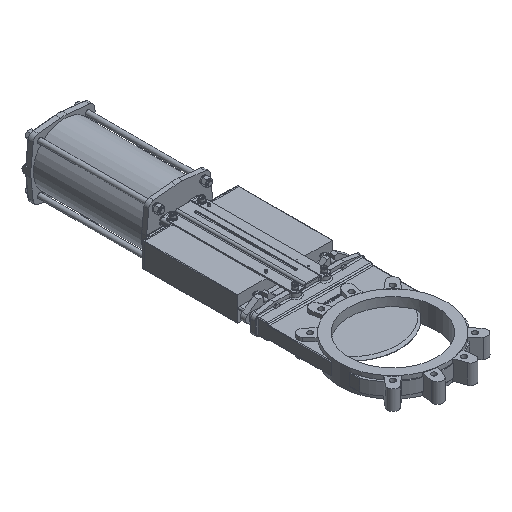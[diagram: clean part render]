
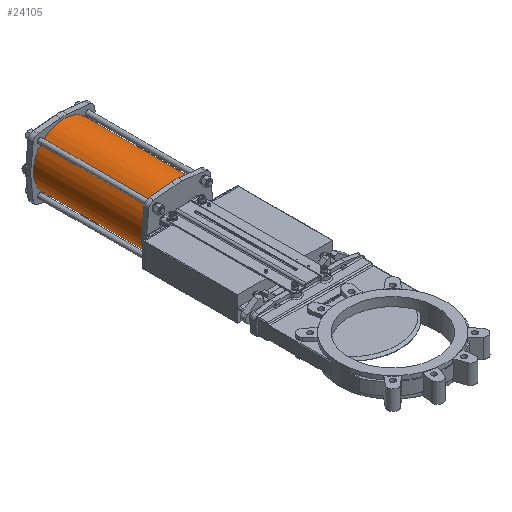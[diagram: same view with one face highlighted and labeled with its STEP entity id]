
A CAD part, isometric view. The second image highlights one B-rep face of the part: STEP entity #24105.
In plain terms, the highlighted cylindrical face has radius 105 mm (diameter 210 mm), a full revolution.
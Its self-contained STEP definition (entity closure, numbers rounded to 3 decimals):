
#1022=CYLINDRICAL_SURFACE('',#26557,105.);
#2230=CIRCLE('',#26370,105.);
#2325=CIRCLE('',#26558,105.);
#4535=FACE_OUTER_BOUND('',#6092,.T.);
#6092=EDGE_LOOP('',(#21750,#21751,#21752,#21753,#21754,#21755));
#7801=LINE('',#44892,#9452);
#9452=VECTOR('',#32882,105.);
#9781=B_SPLINE_CURVE_WITH_KNOTS('',3,(#43035,#43036,#43037,#43038),
 .UNSPECIFIED.,.F.,.F.,(4,4),(-1.863,-1.744),
 .UNSPECIFIED.);
#9782=B_SPLINE_CURVE_WITH_KNOTS('',3,(#43040,#43041,#43042,#43043),
 .UNSPECIFIED.,.F.,.F.,(4,4),(-1.744,-1.625),
 .UNSPECIFIED.);
#11692=VERTEX_POINT('',#43033);
#11693=VERTEX_POINT('',#43034);
#11694=VERTEX_POINT('',#43039);
#11802=VERTEX_POINT('',#44891);
#14972=EDGE_CURVE('',#11692,#11693,#9781,.T.);
#14973=EDGE_CURVE('',#11693,#11694,#9782,.T.);
#14976=EDGE_CURVE('',#11694,#11692,#2230,.T.);
#15192=EDGE_CURVE('',#11693,#11802,#7801,.T.);
#15193=EDGE_CURVE('',#11802,#11802,#2325,.T.);
#21750=ORIENTED_EDGE('',*,*,#14972,.F.);
#21751=ORIENTED_EDGE('',*,*,#14976,.F.);
#21752=ORIENTED_EDGE('',*,*,#14973,.F.);
#21753=ORIENTED_EDGE('',*,*,#15192,.T.);
#21754=ORIENTED_EDGE('',*,*,#15193,.T.);
#21755=ORIENTED_EDGE('',*,*,#15192,.F.);
#24105=ADVANCED_FACE('',(#4535),#1022,.T.);
#26370=AXIS2_PLACEMENT_3D('',#43047,#32429,#32430);
#26557=AXIS2_PLACEMENT_3D('',#44890,#32880,#32881);
#26558=AXIS2_PLACEMENT_3D('',#44893,#32883,#32884);
#32429=DIRECTION('center_axis',(0.,-1.,0.));
#32430=DIRECTION('ref_axis',(1.,0.,0.));
#32880=DIRECTION('center_axis',(0.,-1.,0.));
#32881=DIRECTION('ref_axis',(1.,0.,0.));
#32882=DIRECTION('',(0.,1.,0.));
#32883=DIRECTION('center_axis',(0.,-1.,0.));
#32884=DIRECTION('ref_axis',(1.,0.,0.));
#43033=CARTESIAN_POINT('',(-104.993,748.5,1.21));
#43034=CARTESIAN_POINT('',(-105.,748.563,0.));
#43035=CARTESIAN_POINT('Ctrl Pts',(-104.993,748.5,1.21));
#43036=CARTESIAN_POINT('Ctrl Pts',(-104.998,748.543,0.802));
#43037=CARTESIAN_POINT('Ctrl Pts',(-105.,748.563,0.398));
#43038=CARTESIAN_POINT('Ctrl Pts',(-105.,748.563,0.));
#43039=CARTESIAN_POINT('',(-104.993,748.5,-1.21));
#43040=CARTESIAN_POINT('Ctrl Pts',(-105.,748.563,0.));
#43041=CARTESIAN_POINT('Ctrl Pts',(-105.,748.563,-0.398));
#43042=CARTESIAN_POINT('Ctrl Pts',(-104.998,748.543,-0.802));
#43043=CARTESIAN_POINT('Ctrl Pts',(-104.993,748.5,-1.21));
#43047=CARTESIAN_POINT('Origin',(0.,748.5,0.));
#44890=CARTESIAN_POINT('Origin',(0.,1128.5,0.));
#44891=CARTESIAN_POINT('',(-105.,1128.5,0.));
#44892=CARTESIAN_POINT('',(-105.,1128.5,0.));
#44893=CARTESIAN_POINT('Origin',(0.,1128.5,0.));
